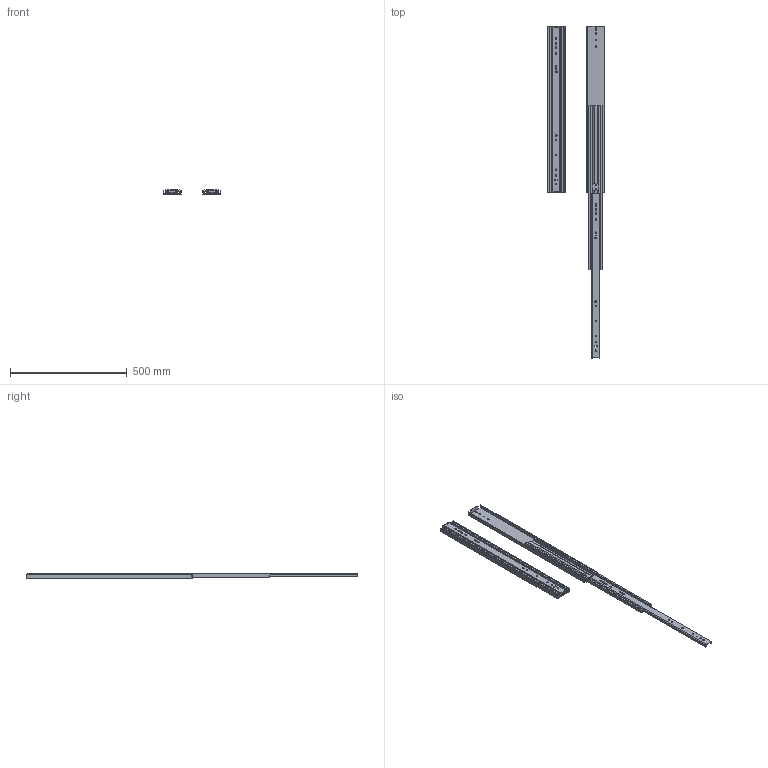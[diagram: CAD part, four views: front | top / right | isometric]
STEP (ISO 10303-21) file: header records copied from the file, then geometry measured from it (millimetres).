
FILE_DESCRIPTION((''),'2;1');
FILE_NAME('ASSEM1_1_2_3_4_5_6_7_8_9_10_ASM','2026-04-07T16:43:35',('T260078'),(''),'CREO PARAMETRIC BY PTC INC, 2025123','CREO PARAMETRIC BY PTC INC, 2025123','');
FILE_SCHEMA(('CONFIG_CONTROL_DESIGN','SHAPE_APPEARANCE_LAYERS_GROUPS'));
Length unit declared in the file: millimetre
Products named in the file (6): 76J01-28_X2_540B_X0_-M; 76J01-28_X2_540B_X0_-I; 76J01-28_X2_540B_X0_-O; 76J01-28_X2_540_X0__ASM; 76J01-28_X2_540B_X0_-_X2_5C5595_ASM; ASSEM1_1_2_3_4_5_6_7_8_9_10_ASM
Assembly tree (8 placements, depth 3):
  ASSEM1_1_2_3_4_5_6_7_8_9_10_ASM
    76J01-28_X2_540_X0__ASM
      76J01-28_X2_540B_X0_-M
      76J01-28_X2_540B_X0_-I
      76J01-28_X2_540B_X0_-O
    76J01-28_X2_540B_X0_-_X2_5C5595_ASM
      76J01-28_X2_540B_X0_-M
      76J01-28_X2_540B_X0_-I
      76J01-28_X2_540B_X0_-O
Bounding box: 245.44 x 1422.4 x 19.3 mm (x, y, z)
Volume: 872293.8 mm3; surface area: 779925.6 mm2
Topology: 6 solids, 6 shells, 388 faces, 1234 edges, 846 vertices
Faces by surface type: plane 200, cylinder 188
Entity records: 8398 total; most frequent: CARTESIAN_POINT 1279, DIRECTION 1254, ORIENTED_EDGE 1234, EDGE_CURVE 617, AXIS2_PLACEMENT_3D 431, VERTEX_POINT 423, VECTOR 392, LINE 392
